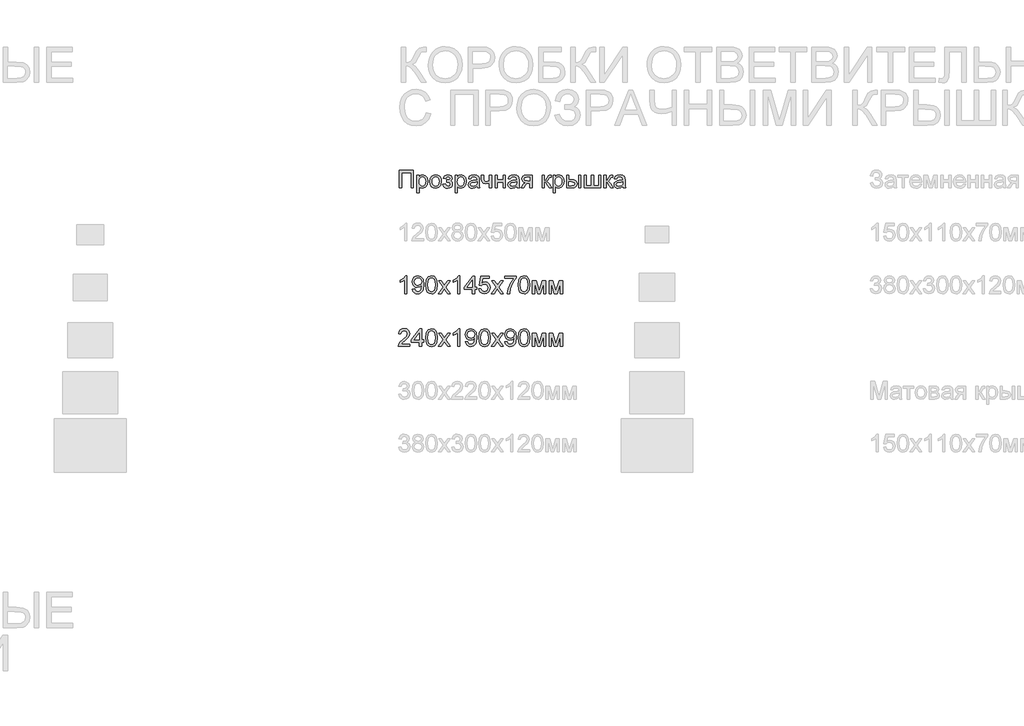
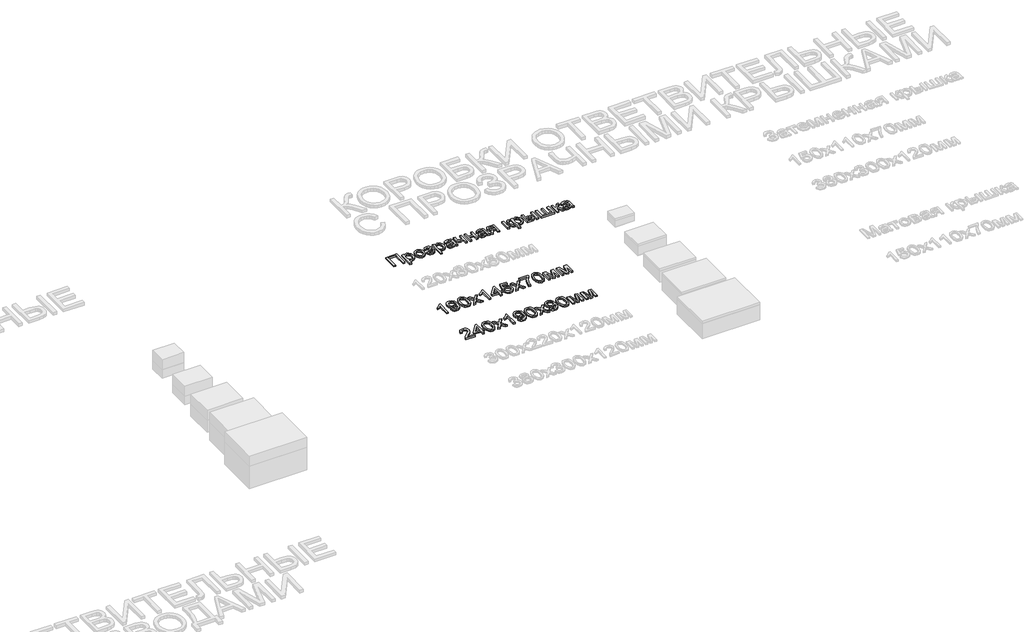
# One storey, part 22 of 98: 3 proxies.
"""IFC4 building model written with IfcOpenShell, lengths in millimetres."""

from ifc_helpers import new_model, si_unit, origin, origin_with_axes, place, context, project, spatial, polyline, outline, extrude, element, save

model = new_model("IFC4")

# Units and contexts
model_context = context("Model", 3, world=origin())
ifc_project = project(units=[si_unit("LENGTHUNIT", "METRE", prefix="MILLI")], contexts=[model_context])

# Site, building, storey
site = spatial("IfcSite", under=ifc_project)
building = spatial("IfcBuilding", under=site)
storey = spatial("IfcBuildingStorey", under=building, Name="Этаж 01", Elevation=0.0)

# Proxies
placement = place(None, origin())
element("IfcBuildingElementProxy", 1, Name="100", ObjectType="100", at=placement, inside=storey, context=model_context, shape_type="SweptSolid", body=[
    extrude(outline(polyline([(5865.3429127, -41937.0810385), (5943.8244051, -41937.0810385), (5943.8244051, -42037.5373486), (5931.2673663, -42037.5373486), (5931.2673663, -41949.6380772), (5877.8999515, -41949.6380772), (5877.8999515, -42037.5373486), (5865.3429127, -42037.5373486), (5865.3429127, -41937.0810385)])), origin_with_axes(), (0.0, 0.0, 1.0), 10.0),
    extrude(outline(polyline([(5964.2295931, -42065.7906858), (5964.2295931, -41963.7647458), (5976.7866318, -41963.7647458), (5976.7866318, -41976.07653), (5985.4686469, -41965.6654695), (5997.1918198, -41962.195116), (6013.1088475, -41967.0511583), (6023.5076452, -41980.7363686), (6027.0147869, -42000.0869615), (6023.0539241, -42020.4308358), (6011.5514804, -42034.2877243), (5995.6712409, -42039.1069785), (5984.7451456, -42035.8818796), (5976.7866318, -42027.7271621), (5976.7866318, -42065.7906858), (5964.2295931, -42065.7906858)]), holes=[polyline([(5976.7866318, -42001.2396584), (5978.1447295, -42012.4968475), (5982.2190226, -42020.3695222), (5988.2308276, -42025.0048353), (5995.4014608, -42026.5499397), (6002.68859, -42024.949653), (6008.8536791, -42020.148793), (6013.0567309, -42011.987944), (6014.4577481, -42000.3076907), (6013.0904534, -41989.1118153), (6008.9885691, -41981.128776), (6002.9859612, -41976.3463101), (5995.9164956, -41974.7521548), (5988.8194387, -41976.4474776), (5982.5869046, -41981.5334462), (5978.2367, -41989.850645), (5976.7866318, -42001.2396584)])]), origin_with_axes(), (0.0, 0.0, 1.0), 10.0),
    extrude(outline(polyline([(6038.0021958, -42000.6510472), (6040.7183912, -41982.8639528), (6048.8669774, -41970.3620963), (6058.9346813, -41964.2368611), (6070.9889481, -41962.195116), (6084.1805833, -41964.6813852), (6094.7173367, -41972.1401926), (6101.6243212, -41983.9829272), (6103.9266494, -41999.6209776), (6099.8554219, -42021.9636775), (6087.997359, -42034.6065554), (6070.9889481, -42039.1069785), (6057.6378973, -42036.6299064), (6047.1134066, -42029.1986901), (6040.2799985, -42017.1076351), (6038.0021958, -42000.6510472)]), holes=[polyline([(6050.5592346, -42000.6265218), (6052.0123685, -42011.9910097), (6056.3717701, -42020.0874793), (6062.9323324, -42024.9343246), (6070.9889481, -42026.5499397), (6079.0087755, -42024.9251275), (6085.5570751, -42020.0506911), (6089.9164767, -42011.8469226), (6091.3696106, -42000.2341143), (6089.9072797, -41989.2007201), (6085.5202869, -41981.2146152), (6078.9627903, -41976.3677699), (6070.9889481, -41974.7521548), (6062.9323324, -41976.3616385), (6056.3717701, -41981.1900897), (6052.0123685, -41989.2681652), (6050.5592346, -42000.6265218)])]), origin_with_axes(), (0.0, 0.0, 1.0), 10.0),
    extrude(outline(polyline([(6135.3192463, -42004.5751218), (6135.3192463, -41992.0180831), (6145.2275347, -41991.5275737), (6150.2307298, -41988.9156116), (6152.5851746, -41983.4586953), (6149.4336522, -41977.1188623), (6141.3034601, -41974.7521548), (6132.9034878, -41977.1065995), (6127.471097, -41984.1699338), (6113.3444284, -41982.600304), (6122.786733, -41967.296413), (6140.0281358, -41962.195116), (6150.5250354, -41963.7494174), (6158.4712865, -41968.4123217), (6163.4744816, -41975.233467), (6165.1422134, -41983.2624916), (6162.7693745, -41991.0615899), (6155.6508579, -41997.0948546), (6163.9527282, -42004.9184784), (6166.7118432, -42016.1756674), (6164.961338, -42025.4187026), (6159.7098226, -42032.7426199), (6151.312916, -42037.5158888), (6140.1262377, -42039.1069785), (6129.184814, -42037.6354505), (6120.8124329, -42033.2208665), (6115.0090945, -42025.8632266), (6111.7747986, -42015.5625308), (6125.9014672, -42013.9929009), (6131.5668499, -42023.2635272), (6141.3279855, -42026.5499397), (6150.5005099, -42023.3984173), (6154.1548044, -42015.3418016), (6151.8861988, -42008.7444511), (6147.0546819, -42005.212784), (6137.7717929, -42004.5015454), (6135.3192463, -42004.5751218)])), origin_with_axes(), (0.0, 0.0, 1.0), 10.0),
    extrude(outline(polyline([(6182.4081417, -42065.7906858), (6182.4081417, -41963.7647458), (6194.9651804, -41963.7647458), (6194.9651804, -41976.07653), (6203.6471955, -41965.6654695), (6215.3703684, -41962.195116), (6231.2873961, -41967.0511583), (6241.6861938, -41980.7363686), (6245.1933355, -42000.0869615), (6241.2324727, -42020.4308358), (6229.730029, -42034.2877243), (6213.8497895, -42039.1069785), (6202.9236943, -42035.8818796), (6194.9651804, -42027.7271621), (6194.9651804, -42065.7906858), (6182.4081417, -42065.7906858)]), holes=[polyline([(6194.9651804, -42001.2396584), (6196.3232781, -42012.4968475), (6200.3975712, -42020.3695222), (6206.4093762, -42025.0048353), (6213.5800094, -42026.5499397), (6220.8671386, -42024.949653), (6227.0322277, -42020.148793), (6231.2352795, -42011.987944), (6232.6362967, -42000.3076907), (6231.269002, -41989.1118153), (6227.1671177, -41981.128776), (6221.1645099, -41976.3463101), (6214.0950442, -41974.7521548), (6206.9979874, -41976.4474776), (6200.7654532, -41981.5334462), (6196.4152486, -41989.850645), (6194.9651804, -42001.2396584)])]), origin_with_axes(), (0.0, 0.0, 1.0), 10.0),
    extrude(outline(polyline([(6306.4088995, -42028.1195695), (6294.2320055, -42036.6299064), (6280.7797872, -42039.1069785), (6270.2859533, -42037.6170564), (6262.5451029, -42033.1472901), (6257.7718341, -42026.3598673), (6256.1807444, -42017.9169755), (6258.5842401, -42007.9841617), (6264.8995477, -42000.7736746), (6273.6919274, -41996.6533962), (6284.556709, -41994.7649353), (6306.3353231, -41990.4484532), (6306.4088995, -41987.6525501), (6302.9508087, -41978.3819238), (6289.0693948, -41974.7521548), (6276.3652032, -41977.1679132), (6270.307413, -41985.7395637), (6257.7503743, -41984.1699338), (6263.1827651, -41971.9072007), (6274.1211231, -41964.721239), (6290.6880756, -41962.195116), (6305.9061274, -41964.4269334), (6314.5023034, -41970.0310025), (6318.3528016, -41978.5536021), (6318.9659383, -41989.541011), (6318.9659383, -42005.163733), (6319.6036004, -42026.9791354), (6322.105198, -42037.5373486), (6309.5481592, -42037.5373486), (6306.4088995, -42028.1195695)]), holes=[polyline([(6306.4088995, -42003.005492), (6286.1508643, -42006.8559902), (6275.3473964, -42008.8916039), (6270.4545658, -42012.2025419), (6268.7377832, -42017.0340587), (6272.4779168, -42023.8276129), (6283.453063, -42026.5499397), (6296.1572546, -42023.5455701), (6304.3487603, -42016.2737693), (6306.3353231, -42006.5616846), (6306.4088995, -42003.005492)])]), origin_with_axes(), (0.0, 0.0, 1.0), 10.0),
    extrude(outline(polyline([(6331.522977, -41963.7647458), (6344.0800158, -41963.7647458), (6344.0800158, -41977.9159399), (6345.0978227, -41991.1842172), (6349.9906532, -41998.3701789), (6359.7027379, -42001.4358622), (6377.0422426, -41997.6344149), (6377.0422426, -41963.7647458), (6389.5992813, -41963.7647458), (6389.5992813, -42037.5373486), (6377.0422426, -42037.5373486), (6377.0422426, -42009.6764188), (6356.342749, -42013.9929009), (6342.1057158, -42009.4924778), (6333.730269, -41998.4682807), (6331.522977, -41984.1208829), (6331.522977, -41963.7647458)])), origin_with_axes(), (0.0, 0.0, 1.0), 10.0),
    extrude(outline(polyline([(6408.4348395, -41963.7647458), (6420.9918783, -41963.7647458), (6420.9918783, -41992.0180831), (6453.954105, -41992.0180831), (6453.954105, -41963.7647458), (6466.5111438, -41963.7647458), (6466.5111438, -42037.5373486), (6453.954105, -42037.5373486), (6453.954105, -42004.5751218), (6420.9918783, -42004.5751218), (6420.9918783, -42037.5373486), (6408.4348395, -42037.5373486), (6408.4348395, -41963.7647458)])), origin_with_axes(), (0.0, 0.0, 1.0), 10.0),
    extrude(outline(polyline([(6532.4355973, -42028.1195695), (6520.2587033, -42036.6299064), (6506.806485, -42039.1069785), (6496.3126511, -42037.6170564), (6488.5718008, -42033.1472901), (6483.7985319, -42026.3598673), (6482.2074423, -42017.9169755), (6484.610938, -42007.9841617), (6490.9262455, -42000.7736746), (6499.7186252, -41996.6533962), (6510.5834068, -41994.7649353), (6532.3620209, -41990.4484532), (6532.4355973, -41987.6525501), (6528.9775066, -41978.3819238), (6515.0960926, -41974.7521548), (6502.3919011, -41977.1679132), (6496.3341109, -41985.7395637), (6483.7770721, -41984.1699338), (6489.2094629, -41971.9072007), (6500.1478209, -41964.721239), (6516.7147734, -41962.195116), (6531.9328253, -41964.4269334), (6540.5290012, -41970.0310025), (6544.3794994, -41978.5536021), (6544.9926361, -41989.541011), (6544.9926361, -42005.163733), (6545.6302982, -42026.9791354), (6548.1318958, -42037.5373486), (6535.574857, -42037.5373486), (6532.4355973, -42028.1195695)]), holes=[polyline([(6532.4355973, -42003.005492), (6512.1775621, -42006.8559902), (6501.3740942, -42008.8916039), (6496.4812637, -42012.2025419), (6494.764481, -42017.0340587), (6498.5046146, -42023.8276129), (6509.4797608, -42026.5499397), (6522.1839524, -42023.5455701), (6530.3754582, -42016.2737693), (6532.3620209, -42006.5616846), (6532.4355973, -42003.005492)])]), origin_with_axes(), (0.0, 0.0, 1.0), 10.0),
    extrude(outline(polyline([(6618.7652389, -41963.7647458), (6618.7652389, -42037.5373486), (6606.2082001, -42037.5373486), (6606.2082001, -42009.2840114), (6599.365595, -42009.2840114), (6590.0459178, -42010.8781667), (6581.2903263, -42021.5957955), (6571.283936, -42037.5373486), (6556.76486, -42037.5373486), (6569.3709497, -42017.3774153), (6580.064053, -42006.9295666), (6571.4801398, -42004.2992103), (6565.446875, -41999.3021466), (6560.6889346, -41985.0773761), (6562.3137467, -41976.4812001), (6567.1881831, -41969.6753832), (6575.1405656, -41965.2424052), (6585.9992158, -41963.7647458), (6618.7652389, -41963.7647458)]), holes=[polyline([(6606.2082001, -41976.3217846), (6589.6535103, -41976.3217846), (6576.250343, -41979.2280524), (6573.2459733, -41986.0338693), (6577.67282, -41994.1395359), (6593.3568557, -41996.7269726), (6606.2082001, -41996.7269726), (6606.2082001, -41976.3217846)])]), origin_with_axes(), (0.0, 0.0, 1.0), 10.0),
    extrude(outline(polyline([(6676.8415432, -41963.7647458), (6689.3985819, -41963.7647458), (6689.3985819, -41995.1573428), (6697.8108169, -41992.9009999), (6704.7024729, -41979.7553499), (6710.4291693, -41968.4123217), (6715.4814154, -41964.721239), (6724.6662025, -41963.7647458), (6727.0696983, -41963.7647458), (6727.0696983, -41976.395361), (6723.6851839, -41976.3217846), (6717.5538173, -41977.6461598), (6713.2373352, -41985.911242), (6708.1728264, -41994.8507744), (6701.0727039, -41999.2285702), (6708.9944296, -42004.1152694), (6716.7690024, -42014.4098338), (6730.2089579, -42037.5373486), (6715.9351365, -42037.5373486), (6702.7649611, -42014.9003432), (6696.1430852, -42005.3231486), (6689.3985819, -42003.005492), (6689.3985819, -42037.5373486), (6676.8415432, -42037.5373486), (6676.8415432, -41963.7647458)])), origin_with_axes(), (0.0, 0.0, 1.0), 10.0),
    extrude(outline(polyline([(6738.0571072, -42065.7906858), (6738.0571072, -41963.7647458), (6750.6141459, -41963.7647458), (6750.6141459, -41976.07653), (6759.296161, -41965.6654695), (6771.0193339, -41962.195116), (6786.9363616, -41967.0511583), (6797.3351593, -41980.7363686), (6800.842301, -42000.0869615), (6796.8814382, -42020.4308358), (6785.3789945, -42034.2877243), (6769.498755, -42039.1069785), (6758.5726598, -42035.8818796), (6750.6141459, -42027.7271621), (6750.6141459, -42065.7906858), (6738.0571072, -42065.7906858)]), holes=[polyline([(6750.6141459, -42001.2396584), (6751.9722436, -42012.4968475), (6756.0465367, -42020.3695222), (6762.0583417, -42025.0048353), (6769.2289749, -42026.5499397), (6776.5161041, -42024.949653), (6782.6811932, -42020.148793), (6786.884245, -42011.987944), (6788.2852622, -42000.3076907), (6786.9179675, -41989.1118153), (6782.8160833, -41981.128776), (6776.8134754, -41976.3463101), (6769.7440097, -41974.7521548), (6762.6469529, -41976.4474776), (6756.4144187, -41981.5334462), (6752.0642141, -41989.850645), (6750.6141459, -42001.2396584)])]), origin_with_axes(), (0.0, 0.0, 1.0), 10.0),
    extrude(outline(polyline([(6814.9689696, -41963.7647458), (6827.5260084, -41963.7647458), (6827.5260084, -41990.4484532), (6843.0506286, -41990.4484532), (6856.4691244, -41992.0211488), (6866.4111353, -41996.7392353), (6872.5639617, -42004.2225683), (6874.6149038, -42014.0910028), (6872.8950555, -42023.0765205), (6867.7355105, -42030.6579553), (6858.7990437, -42035.8175003), (6845.7484299, -42037.5373486), (6814.9689696, -42037.5373486), (6814.9689696, -41963.7647458)]), holes=[polyline([(6827.5260084, -42024.9803098), (6840.4264037, -42024.9803098), (6857.0791953, -42022.3438222), (6862.057865, -42014.1155283), (6858.3667823, -42006.3900064), (6842.0696099, -42003.005492), (6827.5260084, -42003.005492), (6827.5260084, -42024.9803098)])]), origin_with_axes(), (0.0, 0.0, 1.0), 10.0),
    extrude(outline(polyline([(6884.0326829, -41963.7647458), (6896.5897216, -41963.7647458), (6896.5897216, -42037.5373486), (6884.0326829, -42037.5373486), (6884.0326829, -41963.7647458)])), origin_with_axes(), (0.0, 0.0, 1.0), 10.0),
    extrude(outline(polyline([(6915.4252798, -41963.7647458), (6927.9823186, -41963.7647458), (6927.9823186, -42024.9803098), (6956.2356558, -42024.9803098), (6956.2356558, -41963.7647458), (6968.7926945, -41963.7647458), (6968.7926945, -42024.9803098), (6997.0460318, -42024.9803098), (6997.0460318, -41963.7647458), (7009.6030705, -41963.7647458), (7009.6030705, -42037.5373486), (6915.4252798, -42037.5373486), (6915.4252798, -41963.7647458)])), origin_with_axes(), (0.0, 0.0, 1.0), 10.0),
    extrude(outline(polyline([(7026.8689989, -41963.7647458), (7039.4260376, -41963.7647458), (7039.4260376, -41995.1573428), (7047.8382726, -41992.9009999), (7054.7299286, -41979.7553499), (7060.456625, -41968.4123217), (7065.5088711, -41964.721239), (7074.6936582, -41963.7647458), (7077.0971539, -41963.7647458), (7077.0971539, -41976.395361), (7073.7126396, -41976.3217846), (7067.581273, -41977.6461598), (7063.2647909, -41985.911242), (7058.2002821, -41994.8507744), (7051.1001596, -41999.2285702), (7059.0218852, -42004.1152694), (7066.7964581, -42014.4098338), (7080.2364136, -42037.5373486), (7065.9625922, -42037.5373486), (7052.7924168, -42014.9003432), (7046.1705409, -42005.3231486), (7039.4260376, -42003.005492), (7039.4260376, -42037.5373486), (7026.8689989, -42037.5373486), (7026.8689989, -41963.7647458)])), origin_with_axes(), (0.0, 0.0, 1.0), 10.0),
    extrude(outline(polyline([(7135.1734582, -42028.1195695), (7122.9965642, -42036.6299064), (7109.5443459, -42039.1069785), (7099.050512, -42037.6170564), (7091.3096617, -42033.1472901), (7086.5363928, -42026.3598673), (7084.9453032, -42017.9169755), (7087.3487989, -42007.9841617), (7093.6641064, -42000.7736746), (7102.4564861, -41996.6533962), (7113.3212677, -41994.7649353), (7135.0998818, -41990.4484532), (7135.1734582, -41987.6525501), (7131.7153675, -41978.3819238), (7117.8339535, -41974.7521548), (7105.129762, -41977.1679132), (7099.0719718, -41985.7395637), (7086.514933, -41984.1699338), (7091.9473238, -41971.9072007), (7102.8856818, -41964.721239), (7119.4526343, -41962.195116), (7134.6706862, -41964.4269334), (7143.2668621, -41970.0310025), (7147.1173603, -41978.5536021), (7147.730497, -41989.541011), (7147.730497, -42005.163733), (7148.3681591, -42026.9791354), (7150.8697567, -42037.5373486), (7138.3127179, -42037.5373486), (7135.1734582, -42028.1195695)]), holes=[polyline([(7135.1734582, -42003.005492), (7114.915423, -42006.8559902), (7104.1119551, -42008.8916039), (7099.2191246, -42012.2025419), (7097.5023419, -42017.0340587), (7101.2424755, -42023.8276129), (7112.2176217, -42026.5499397), (7124.9218133, -42023.5455701), (7133.1133191, -42016.2737693), (7135.0998818, -42006.5616846), (7135.1734582, -42003.005492)])]), origin_with_axes(), (0.0, 0.0, 1.0), 10.0),
])
element("IfcBuildingElementProxy", 2, Name="100", ObjectType="100", at=placement, inside=storey, context=model_context, shape_type="SweptSolid", body=[
    extrude(outline(polyline([(5907.7229186, -42637.5373486), (5895.1658798, -42637.5373486), (5895.1658798, -42559.25206), (5883.2710286, -42567.7256087), (5870.0518023, -42574.0654417), (5870.0518023, -42562.195116), (5888.4581648, -42550.4474176), (5899.6295147, -42537.0810385), (5907.7229186, -42537.0810385), (5907.7229186, -42637.5373486)])), origin_with_axes(), (0.0, 0.0, 1.0), 10.0),
    extrude(outline(polyline([(5939.1155155, -42612.4232711), (5951.6725543, -42610.8536412), (5957.3134115, -42622.8343315), (5968.0065149, -42626.5499397), (5978.1723207, -42624.1587067), (5985.0639767, -42617.7698227), (5989.1719923, -42606.8559902), (5990.9868768, -42592.2878632), (5990.9133004, -42589.8353166), (5980.870122, -42599.3511975), (5967.0990726, -42603.005492), (5955.6487455, -42600.7736746), (5946.1175362, -42594.0782222), (5939.6887983, -42583.7346068), (5937.5458857, -42570.5583), (5939.7930315, -42556.9466662), (5946.5344691, -42546.2780883), (5956.660421, -42539.3803009), (5969.0611099, -42537.0810385), (5986.9524376, -42542.3294883), (5999.2642217, -42557.2900227), (6003.4703392, -42585.3962072), (5999.2764845, -42615.8936246), (5994.0617572, -42625.8846864), (5986.8052848, -42633.1718156), (5977.8197671, -42637.6231877), (5967.4179037, -42639.1069785), (5956.6818808, -42637.3564733), (5948.1163617, -42632.1049578), (5942.1260165, -42623.6835258), (5939.1155155, -42612.4232711)]), holes=[polyline([(5990.9133004, -42570.2639944), (5989.5582684, -42561.7536576), (5985.4931724, -42555.2053581), (5979.1839962, -42551.0298974), (5971.0967236, -42549.6380772), (5962.7090141, -42551.1371964), (5955.9890364, -42555.6345538), (5951.5744524, -42562.5170127), (5950.1029244, -42571.1714367), (5951.4947447, -42578.9306811), (5955.6702053, -42585.0896388), (5962.2246362, -42589.1087496), (5970.7533671, -42590.4484532), (5985.235655, -42585.0896388), (5989.4938891, -42578.7038205), (5990.9133004, -42570.2639944)])]), origin_with_axes(), (0.0, 0.0, 1.0), 10.0),
    extrude(outline(polyline([(6014.4577481, -42588.1185339), (6018.1488308, -42559.2152718), (6029.1117143, -42542.5502175), (6047.4199749, -42537.0810385), (6062.0862038, -42540.3184), (6072.2152214, -42549.65034), (6078.1013333, -42564.5127726), (6080.3822017, -42588.1185339), (6076.7279072, -42616.8991687), (6065.8018119, -42633.6010113), (6057.5704523, -42637.7304867), (6047.4199749, -42639.1069785), (6034.3724268, -42636.7157455), (6024.4641384, -42629.5420466), (6016.9593457, -42612.5520298), (6014.4577481, -42588.1185339)]), holes=[polyline([(6027.0147869, -42588.0940085), (6028.4863149, -42607.8462059), (6032.9008988, -42619.2781389), (6039.4737238, -42624.7319895), (6047.4199749, -42626.5499397), (6055.366226, -42624.7258581), (6061.939051, -42619.2536135), (6066.3536349, -42607.8155491), (6067.8251629, -42588.0940085), (6066.4026858, -42568.7863351), (6062.1352547, -42557.2654973), (6055.5746925, -42551.5449322), (6047.2728221, -42549.6380772), (6039.4124101, -42551.3180717), (6033.0971025, -42556.358055), (6028.5353658, -42568.5962627), (6027.0147869, -42588.0940085)])]), origin_with_axes(), (0.0, 0.0, 1.0), 10.0),
    extrude(outline(polyline([(6086.660721, -42637.5373486), (6113.4915812, -42600.4548435), (6088.2303509, -42563.7647458), (6103.3380382, -42563.7647458), (6115.5271949, -42581.4230816), (6121.2171031, -42589.7617402), (6126.1467219, -42582.9436605), (6140.0281358, -42563.7647458), (6155.1358231, -42563.7647458), (6128.5992685, -42600.4548435), (6154.1548044, -42637.5373486), (6139.0471172, -42637.5373486), (6123.6696498, -42615.2436997), (6120.8492211, -42611.1724723), (6101.7684083, -42637.5373486), (6086.660721, -42637.5373486)])), origin_with_axes(), (0.0, 0.0, 1.0), 10.0),
    extrude(outline(polyline([(6209.091849, -42637.5373486), (6196.5348103, -42637.5373486), (6196.5348103, -42559.25206), (6184.6399591, -42567.7256087), (6171.4207327, -42574.0654417), (6171.4207327, -42562.195116), (6189.8270952, -42550.4474176), (6200.9984451, -42537.0810385), (6209.091849, -42537.0810385), (6209.091849, -42637.5373486)])), origin_with_axes(), (0.0, 0.0, 1.0), 10.0),
    extrude(outline(polyline([(6279.7251921, -42637.5373486), (6279.7251921, -42613.9929009), (6234.2059266, -42613.9929009), (6234.2059266, -42601.4358622), (6282.8644518, -42538.6506683), (6292.2822309, -42538.6506683), (6292.2822309, -42601.4358622), (6304.8392697, -42601.4358622), (6304.8392697, -42613.9929009), (6292.2822309, -42613.9929009), (6292.2822309, -42637.5373486), (6279.7251921, -42637.5373486)]), holes=[polyline([(6279.7251921, -42601.4358622), (6279.7251921, -42562.6365744), (6249.6569704, -42601.4358622), (6279.7251921, -42601.4358622)])]), origin_with_axes(), (0.0, 0.0, 1.0), 10.0),
    extrude(outline(polyline([(6315.8266786, -42610.8536412), (6328.3837173, -42609.2840114), (6334.7112877, -42622.2211949), (6347.8324122, -42626.5499397), (6356.8332583, -42625.0446892), (6363.5777615, -42620.5289377), (6367.7900104, -42613.5238514), (6369.1940933, -42604.5505964), (6363.9333808, -42589.6391128), (6357.3268333, -42585.5372286), (6348.0286159, -42584.1699338), (6337.0044188, -42586.3527004), (6329.9533472, -42592.0180831), (6317.3963084, -42590.4484532), (6328.3837173, -42538.6506683), (6377.0422426, -42538.6506683), (6377.0422426, -42551.2077071), (6338.5372604, -42551.2077071), (6333.1661833, -42578.8724331), (6342.1363726, -42573.4277796), (6351.5357576, -42571.6128951), (6363.2681275, -42573.8631066), (6373.0078034, -42580.6137412), (6379.5652999, -42590.9021744), (6381.7511321, -42603.7657815), (6379.7829634, -42616.3228202), (6373.8784574, -42627.0649745), (6362.5722174, -42636.0964775), (6347.7833612, -42639.1069785), (6335.4501173, -42637.1725323), (6325.6246024, -42631.3691938), (6318.8892962, -42622.3714134), (6315.8266786, -42610.8536412)])), origin_with_axes(), (0.0, 0.0, 1.0), 10.0),
    extrude(outline(polyline([(6388.0296515, -42637.5373486), (6414.8605117, -42600.4548435), (6389.5992813, -42563.7647458), (6404.7069686, -42563.7647458), (6416.8961254, -42581.4230816), (6422.5860336, -42589.7617402), (6427.5156523, -42582.9436605), (6441.3970663, -42563.7647458), (6456.5047535, -42563.7647458), (6429.9681989, -42600.4548435), (6455.5237349, -42637.5373486), (6440.4160476, -42637.5373486), (6425.0385802, -42615.2436997), (6422.2181516, -42611.1724723), (6403.1373388, -42637.5373486), (6388.0296515, -42637.5373486)])), origin_with_axes(), (0.0, 0.0, 1.0), 10.0),
    extrude(outline(polyline([(6463.3718841, -42551.2077071), (6463.3718841, -42538.6506683), (6529.2963376, -42538.6506683), (6529.2963376, -42548.8042114), (6510.5956696, -42575.8190126), (6496.2850599, -42610.2405046), (6491.6252213, -42637.5373486), (6479.0681826, -42637.5373486), (6484.059115, -42609.210435), (6497.7565879, -42577.1924387), (6516.7392989, -42551.2077071), (6463.3718841, -42551.2077071)])), origin_with_axes(), (0.0, 0.0, 1.0), 10.0),
    extrude(outline(polyline([(6540.2837466, -42588.1185339), (6543.9748293, -42559.2152718), (6554.9377127, -42542.5502175), (6573.2459733, -42537.0810385), (6587.9122022, -42540.3184), (6598.0412198, -42549.65034), (6603.9273317, -42564.5127726), (6606.2082001, -42588.1185339), (6602.5539056, -42616.8991687), (6591.6278104, -42633.6010113), (6583.3964507, -42637.7304867), (6573.2459733, -42639.1069785), (6560.1984252, -42636.7157455), (6550.2901368, -42629.5420466), (6542.7853441, -42612.5520298), (6540.2837466, -42588.1185339)]), holes=[polyline([(6552.8407853, -42588.0940085), (6554.3123133, -42607.8462059), (6558.7268973, -42619.2781389), (6565.2997222, -42624.7319895), (6573.2459733, -42626.5499397), (6581.1922244, -42624.7258581), (6587.7650494, -42619.2536135), (6592.1796334, -42607.8155491), (6593.6511613, -42588.0940085), (6592.2286843, -42568.7863351), (6587.9612531, -42557.2654973), (6581.4006909, -42551.5449322), (6573.0988205, -42549.6380772), (6565.2384086, -42551.3180717), (6558.923101, -42556.358055), (6554.3613642, -42568.5962627), (6552.8407853, -42588.0940085)])]), origin_with_axes(), (0.0, 0.0, 1.0), 10.0),
    extrude(outline(polyline([(6620.3348687, -42563.7647458), (6641.9418046, -42563.7647458), (6658.5945962, -42622.8220688), (6676.5472376, -42563.7647458), (6697.2467312, -42563.7647458), (6697.2467312, -42637.5373486), (6684.6896924, -42637.5373486), (6684.6896924, -42578.1366691), (6666.6389492, -42637.5373486), (6650.1578358, -42637.5373486), (6632.8919075, -42575.291715), (6632.8919075, -42637.5373486), (6620.3348687, -42637.5373486), (6620.3348687, -42563.7647458)])), origin_with_axes(), (0.0, 0.0, 1.0), 10.0),
    extrude(outline(polyline([(6716.0822893, -42563.7647458), (6737.6892252, -42563.7647458), (6754.3420168, -42622.8220688), (6772.2946582, -42563.7647458), (6792.9941518, -42563.7647458), (6792.9941518, -42637.5373486), (6780.437113, -42637.5373486), (6780.437113, -42578.1366691), (6762.3863698, -42637.5373486), (6745.9052564, -42637.5373486), (6728.6393281, -42575.291715), (6728.6393281, -42637.5373486), (6716.0822893, -42637.5373486), (6716.0822893, -42563.7647458)])), origin_with_axes(), (0.0, 0.0, 1.0), 10.0),
])
element("IfcBuildingElementProxy", 3, Name="100", ObjectType="100", at=placement, inside=storey, context=model_context, shape_type="SweptSolid", body=[
    extrude(outline(polyline([(5924.9888469, -42924.9803098), (5924.9888469, -42937.5373486), (5859.0643934, -42937.5373486), (5860.413294, -42928.879859), (5868.040714, -42915.550268), (5883.761538, -42900.9944038), (5905.4420502, -42880.074181), (5910.8621783, -42865.8494105), (5905.7486186, -42854.334704), (5892.3945021, -42849.6380772), (5878.4763, -42854.2243394), (5873.191062, -42866.9040055), (5860.6340232, -42865.3343757), (5863.6782467, -42853.1881385), (5870.2602688, -42844.316051), (5880.0367328, -42838.8897916), (5892.6642823, -42837.0810385), (5905.3838022, -42839.0921267), (5915.1418722, -42845.1253914), (5921.3498808, -42854.1385003), (5923.4192171, -42865.089121), (5921.1873996, -42876.9962349), (5913.768446, -42889.308019), (5895.7790165, -42906.5126337), (5881.3335168, -42918.5914259), (5875.6681341, -42924.9803098), (5924.9888469, -42924.9803098)])), origin_with_axes(), (0.0, 0.0, 1.0), 10.0),
    extrude(outline(polyline([(5978.3562617, -42937.5373486), (5978.3562617, -42913.9929009), (5932.8369961, -42913.9929009), (5932.8369961, -42901.4358622), (5981.4955214, -42838.6506683), (5990.9133004, -42838.6506683), (5990.9133004, -42901.4358622), (6003.4703392, -42901.4358622), (6003.4703392, -42913.9929009), (5990.9133004, -42913.9929009), (5990.9133004, -42937.5373486), (5978.3562617, -42937.5373486)]), holes=[polyline([(5978.3562617, -42901.4358622), (5978.3562617, -42862.6365744), (5948.2880399, -42901.4358622), (5978.3562617, -42901.4358622)])]), origin_with_axes(), (0.0, 0.0, 1.0), 10.0),
    extrude(outline(polyline([(6014.4577481, -42888.1185339), (6018.1488308, -42859.2152718), (6029.1117143, -42842.5502175), (6047.4199749, -42837.0810385), (6062.0862038, -42840.3184), (6072.2152214, -42849.65034), (6078.1013333, -42864.5127726), (6080.3822017, -42888.1185339), (6076.7279072, -42916.8991687), (6065.8018119, -42933.6010113), (6057.5704523, -42937.7304867), (6047.4199749, -42939.1069785), (6034.3724268, -42936.7157455), (6024.4641384, -42929.5420466), (6016.9593457, -42912.5520298), (6014.4577481, -42888.1185339)]), holes=[polyline([(6027.0147869, -42888.0940085), (6028.4863149, -42907.8462059), (6032.9008988, -42919.2781389), (6039.4737238, -42924.7319895), (6047.4199749, -42926.5499397), (6055.366226, -42924.7258581), (6061.939051, -42919.2536135), (6066.3536349, -42907.8155491), (6067.8251629, -42888.0940085), (6066.4026858, -42868.7863351), (6062.1352547, -42857.2654973), (6055.5746925, -42851.5449322), (6047.2728221, -42849.6380772), (6039.4124101, -42851.3180717), (6033.0971025, -42856.358055), (6028.5353658, -42868.5962627), (6027.0147869, -42888.0940085)])]), origin_with_axes(), (0.0, 0.0, 1.0), 10.0),
    extrude(outline(polyline([(6086.660721, -42937.5373486), (6113.4915812, -42900.4548435), (6088.2303509, -42863.7647458), (6103.3380382, -42863.7647458), (6115.5271949, -42881.4230816), (6121.2171031, -42889.7617402), (6126.1467219, -42882.9436605), (6140.0281358, -42863.7647458), (6155.1358231, -42863.7647458), (6128.5992685, -42900.4548435), (6154.1548044, -42937.5373486), (6139.0471172, -42937.5373486), (6123.6696498, -42915.2436997), (6120.8492211, -42911.1724723), (6101.7684083, -42937.5373486), (6086.660721, -42937.5373486)])), origin_with_axes(), (0.0, 0.0, 1.0), 10.0),
    extrude(outline(polyline([(6209.091849, -42937.5373486), (6196.5348103, -42937.5373486), (6196.5348103, -42859.25206), (6184.6399591, -42867.7256087), (6171.4207327, -42874.0654417), (6171.4207327, -42862.195116), (6189.8270952, -42850.4474176), (6200.9984451, -42837.0810385), (6209.091849, -42837.0810385), (6209.091849, -42937.5373486)])), origin_with_axes(), (0.0, 0.0, 1.0), 10.0),
    extrude(outline(polyline([(6240.484446, -42912.4232711), (6253.0414847, -42910.8536412), (6258.682342, -42922.8343315), (6269.3754453, -42926.5499397), (6279.5412511, -42924.1587067), (6286.4329072, -42917.7698227), (6290.5409228, -42906.8559902), (6292.3558073, -42892.2878632), (6292.2822309, -42889.8353166), (6282.2390524, -42899.3511975), (6268.4680031, -42903.005492), (6257.017676, -42900.7736746), (6247.4864666, -42894.0782222), (6241.0577287, -42883.7346068), (6238.9148161, -42870.5583), (6241.161962, -42856.9466662), (6247.9033995, -42846.2780883), (6258.0293515, -42839.3803009), (6270.4300404, -42837.0810385), (6288.3213681, -42842.3294883), (6300.6331522, -42857.2900227), (6304.8392697, -42885.3962072), (6300.6454149, -42915.8936246), (6295.4306876, -42925.8846864), (6288.1742153, -42933.1718156), (6279.1886975, -42937.6231877), (6268.7868341, -42939.1069785), (6258.0508112, -42937.3564733), (6249.4852921, -42932.1049578), (6243.494947, -42923.6835258), (6240.484446, -42912.4232711)]), holes=[polyline([(6292.2822309, -42870.2639944), (6290.9271989, -42861.7536576), (6286.8621028, -42855.2053581), (6280.5529266, -42851.0298974), (6272.4656541, -42849.6380772), (6264.0779446, -42851.1371964), (6257.3579668, -42855.6345538), (6252.9433829, -42862.5170127), (6251.4718549, -42871.1714367), (6252.8636751, -42878.9306811), (6257.0391357, -42885.0896388), (6263.5935666, -42889.1087496), (6272.1222975, -42890.4484532), (6286.6045854, -42885.0896388), (6290.8628195, -42878.7038205), (6292.2822309, -42870.2639944)])]), origin_with_axes(), (0.0, 0.0, 1.0), 10.0),
    extrude(outline(polyline([(6315.8266786, -42888.1185339), (6319.5177613, -42859.2152718), (6330.4806447, -42842.5502175), (6348.7889053, -42837.0810385), (6363.4551342, -42840.3184), (6373.5841518, -42849.65034), (6379.4702637, -42864.5127726), (6381.7511321, -42888.1185339), (6378.0968376, -42916.8991687), (6367.1707424, -42933.6010113), (6358.9393827, -42937.7304867), (6348.7889053, -42939.1069785), (6335.7413572, -42936.7157455), (6325.8330688, -42929.5420466), (6318.3282761, -42912.5520298), (6315.8266786, -42888.1185339)]), holes=[polyline([(6328.3837173, -42888.0940085), (6329.8552453, -42907.8462059), (6334.2698293, -42919.2781389), (6340.8426542, -42924.7319895), (6348.7889053, -42926.5499397), (6356.7351564, -42924.7258581), (6363.3079814, -42919.2536135), (6367.7225654, -42907.8155491), (6369.1940933, -42888.0940085), (6367.7716163, -42868.7863351), (6363.5041852, -42857.2654973), (6356.9436229, -42851.5449322), (6348.6417525, -42849.6380772), (6340.7813406, -42851.3180717), (6334.466033, -42856.358055), (6329.9042963, -42868.5962627), (6328.3837173, -42888.0940085)])]), origin_with_axes(), (0.0, 0.0, 1.0), 10.0),
    extrude(outline(polyline([(6388.0296515, -42937.5373486), (6414.8605117, -42900.4548435), (6389.5992813, -42863.7647458), (6404.7069686, -42863.7647458), (6416.8961254, -42881.4230816), (6422.5860336, -42889.7617402), (6427.5156523, -42882.9436605), (6441.3970663, -42863.7647458), (6456.5047535, -42863.7647458), (6429.9681989, -42900.4548435), (6455.5237349, -42937.5373486), (6440.4160476, -42937.5373486), (6425.0385802, -42915.2436997), (6422.2181516, -42911.1724723), (6403.1373388, -42937.5373486), (6388.0296515, -42937.5373486)])), origin_with_axes(), (0.0, 0.0, 1.0), 10.0),
    extrude(outline(polyline([(6464.941514, -42912.4232711), (6477.4985527, -42910.8536412), (6483.13941, -42922.8343315), (6493.8325133, -42926.5499397), (6503.9983191, -42924.1587067), (6510.8899752, -42917.7698227), (6514.9979908, -42906.8559902), (6516.8128753, -42892.2878632), (6516.7392989, -42889.8353166), (6506.6961204, -42899.3511975), (6492.9250711, -42903.005492), (6481.474744, -42900.7736746), (6471.9435346, -42894.0782222), (6465.5147967, -42883.7346068), (6463.3718841, -42870.5583), (6465.61903, -42856.9466662), (6472.3604675, -42846.2780883), (6482.4864194, -42839.3803009), (6494.8871084, -42837.0810385), (6512.7784361, -42842.3294883), (6525.0902202, -42857.2900227), (6529.2963376, -42885.3962072), (6525.1024829, -42915.8936246), (6519.8877556, -42925.8846864), (6512.6312833, -42933.1718156), (6503.6457655, -42937.6231877), (6493.2439021, -42939.1069785), (6482.5078792, -42937.3564733), (6473.9423601, -42932.1049578), (6467.9520149, -42923.6835258), (6464.941514, -42912.4232711)]), holes=[polyline([(6516.7392989, -42870.2639944), (6515.3842669, -42861.7536576), (6511.3191708, -42855.2053581), (6505.0099946, -42851.0298974), (6496.9227221, -42849.6380772), (6488.5350126, -42851.1371964), (6481.8150348, -42855.6345538), (6477.4004509, -42862.5170127), (6475.9289229, -42871.1714367), (6477.3207431, -42878.9306811), (6481.4962037, -42885.0896388), (6488.0506346, -42889.1087496), (6496.5793655, -42890.4484532), (6511.0616534, -42885.0896388), (6515.3198875, -42878.7038205), (6516.7392989, -42870.2639944)])]), origin_with_axes(), (0.0, 0.0, 1.0), 10.0),
    extrude(outline(polyline([(6540.2837466, -42888.1185339), (6543.9748293, -42859.2152718), (6554.9377127, -42842.5502175), (6573.2459733, -42837.0810385), (6587.9122022, -42840.3184), (6598.0412198, -42849.65034), (6603.9273317, -42864.5127726), (6606.2082001, -42888.1185339), (6602.5539056, -42916.8991687), (6591.6278104, -42933.6010113), (6583.3964507, -42937.7304867), (6573.2459733, -42939.1069785), (6560.1984252, -42936.7157455), (6550.2901368, -42929.5420466), (6542.7853441, -42912.5520298), (6540.2837466, -42888.1185339)]), holes=[polyline([(6552.8407853, -42888.0940085), (6554.3123133, -42907.8462059), (6558.7268973, -42919.2781389), (6565.2997222, -42924.7319895), (6573.2459733, -42926.5499397), (6581.1922244, -42924.7258581), (6587.7650494, -42919.2536135), (6592.1796334, -42907.8155491), (6593.6511613, -42888.0940085), (6592.2286843, -42868.7863351), (6587.9612531, -42857.2654973), (6581.4006909, -42851.5449322), (6573.0988205, -42849.6380772), (6565.2384086, -42851.3180717), (6558.923101, -42856.358055), (6554.3613642, -42868.5962627), (6552.8407853, -42888.0940085)])]), origin_with_axes(), (0.0, 0.0, 1.0), 10.0),
    extrude(outline(polyline([(6620.3348687, -42863.7647458), (6641.9418046, -42863.7647458), (6658.5945962, -42922.8220688), (6676.5472376, -42863.7647458), (6697.2467312, -42863.7647458), (6697.2467312, -42937.5373486), (6684.6896924, -42937.5373486), (6684.6896924, -42878.1366691), (6666.6389492, -42937.5373486), (6650.1578358, -42937.5373486), (6632.8919075, -42875.291715), (6632.8919075, -42937.5373486), (6620.3348687, -42937.5373486), (6620.3348687, -42863.7647458)])), origin_with_axes(), (0.0, 0.0, 1.0), 10.0),
    extrude(outline(polyline([(6716.0822893, -42863.7647458), (6737.6892252, -42863.7647458), (6754.3420168, -42922.8220688), (6772.2946582, -42863.7647458), (6792.9941518, -42863.7647458), (6792.9941518, -42937.5373486), (6780.437113, -42937.5373486), (6780.437113, -42878.1366691), (6762.3863698, -42937.5373486), (6745.9052564, -42937.5373486), (6728.6393281, -42875.291715), (6728.6393281, -42937.5373486), (6716.0822893, -42937.5373486), (6716.0822893, -42863.7647458)])), origin_with_axes(), (0.0, 0.0, 1.0), 10.0),
])

save(model, "model.ifc")
